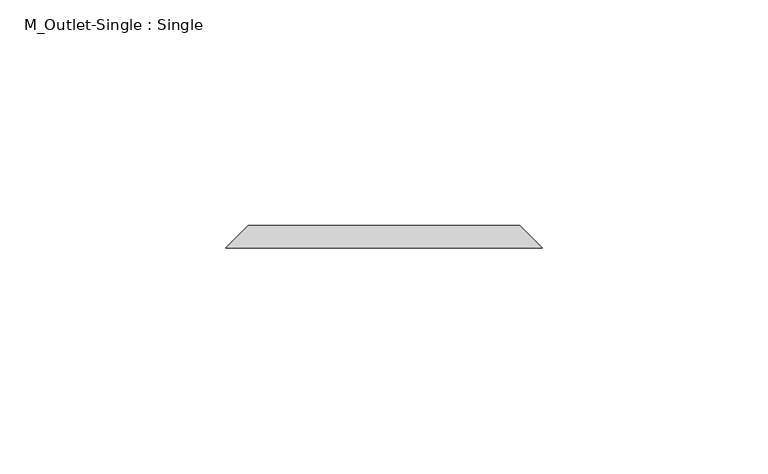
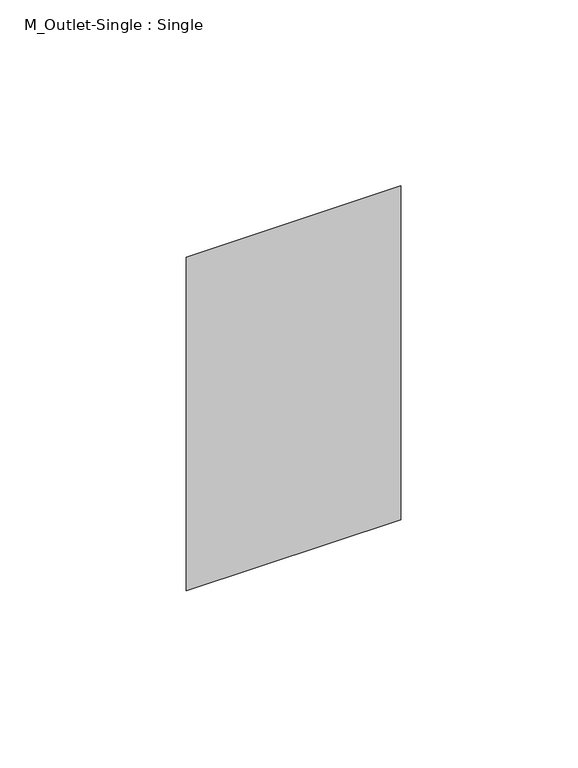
"""IFC4 building model written with IfcOpenShell, lengths in millimetres: proxy geometry, M_Outlet-Single : Single."""

from ifc_helpers import new_model, si_unit, origin, place, context, project, spatial, faceted_brep, source, transform, mapped, element, save


def m_outlet_single_single_59dc3149(model_context):
    return source(origin(), model_context, "Body", "Brep", [
        faceted_brep([(95.0, 44.9515331, 357.5), (155.0, 44.9515331, 357.5), (155.0, 44.9515331, 252.5), (95.0, 44.9515331, 252.5), (90.0, 39.9515331, 362.5), (90.0, 39.9515331, 247.5), (160.0, 39.9515331, 247.5), (160.0, 39.9515331, 362.5)], [[[0, 1, 2, 3]], [[4, 5, 6, 7]], [[4, 7, 1, 0]], [[7, 6, 2, 1]], [[6, 5, 3, 2]], [[5, 4, 0, 3]]]),
    ])


if __name__ == "__main__":
    model = new_model("IFC4")
    model_context = context("Model", 3, world=origin())
    ifc_project = project(units=[si_unit("LENGTHUNIT", "METRE", prefix="MILLI")], contexts=[model_context])
    site = spatial("IfcSite", under=ifc_project)
    building = spatial("IfcBuilding", under=site)
    placement = place(None, origin())
    m_outlet_single_single_shape = m_outlet_single_single_59dc3149(model_context)
    element("IfcBuildingElementProxy", 1, Name="M_Outlet-Single : Single", ObjectType="M_Outlet-Single : Single", at=placement, inside=building, context=model_context, shape_type="MappedRepresentation", body=[
        mapped(m_outlet_single_single_shape, transform((0.0, 0.0, 0.0), x_axis=(1.0, 0.0, 0.0), y_axis=(0.0, 1.0, 0.0), z_axis=(0.0, 0.0, 1.0))),
    ])
    save(model, "model.ifc")
